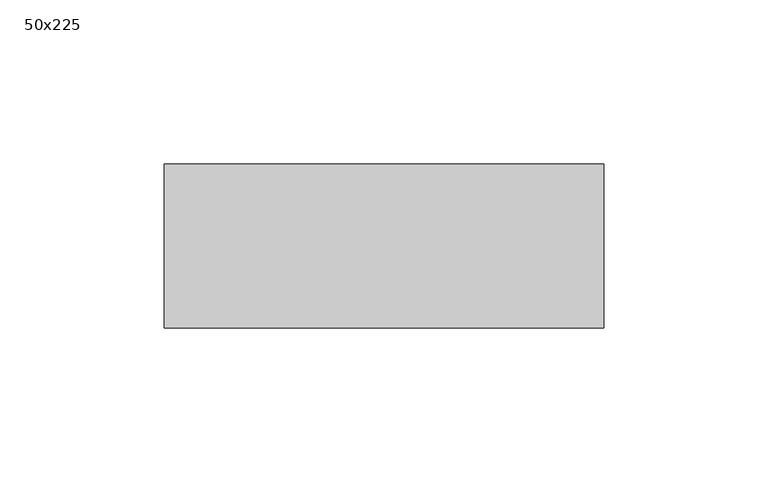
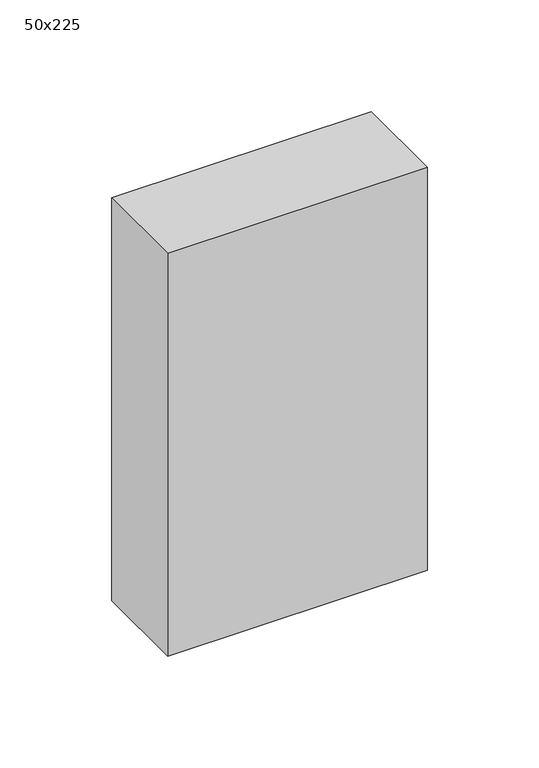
"""IFC4 building model written with IfcOpenShell, lengths in millimetres: beam geometry, Graded Timber : 50x225."""

from ifc_helpers import new_model, si_unit, frame, origin, place, context, project, spatial, polyline, outline, extrude, source, transform, mapped, element, save


def beam_50x225_a7e6d11b(model_context):
    return source(origin(), model_context, "Body", "SweptSolid", [
        extrude(outline(polyline([(67.0, 25.0), (67.0, -25.0), (-67.0, -25.0), (-67.0, 25.0), (67.0, 25.0)])), frame((0.0, 0.0, -110.0), z_axis=(0.0, 0.0, 1.0), x_axis=(1.0, 0.0, 0.0)), (0.0, 0.0, 1.0), 220.0),
    ])


if __name__ == "__main__":
    model = new_model("IFC4")
    model_context = context("Model", 3, world=origin())
    ifc_project = project(units=[si_unit("LENGTHUNIT", "METRE", prefix="MILLI")], contexts=[model_context])
    site = spatial("IfcSite", under=ifc_project)
    building = spatial("IfcBuilding", under=site)
    placement = place(None, origin())
    beam_50x225_shape = beam_50x225_a7e6d11b(model_context)
    element("IfcBeam", 1, ObjectType="Graded Timber : 50x225", at=placement, inside=building, context=model_context, shape_type="MappedRepresentation", body=[
        mapped(beam_50x225_shape, transform((0.0, 0.0, 0.0), x_axis=(1.0, 0.0, 0.0), y_axis=(0.0, 1.0, 0.0), z_axis=(0.0, 0.0, 1.0))),
    ])
    save(model, "model.ifc")
